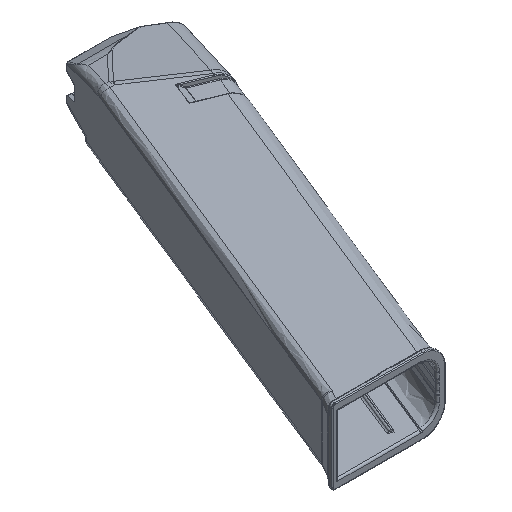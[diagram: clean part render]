
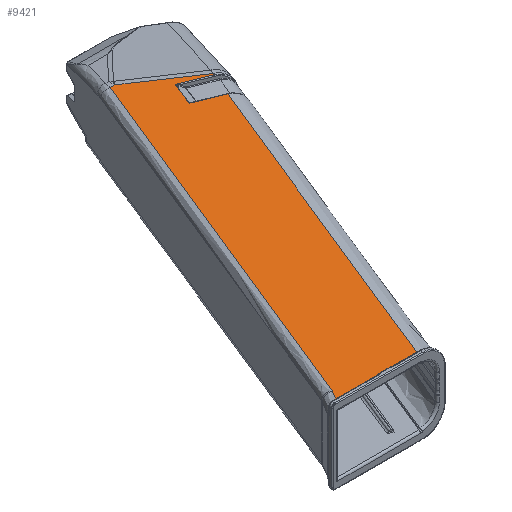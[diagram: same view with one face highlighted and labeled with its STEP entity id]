
A CAD part, isometric view. The second image highlights one B-rep face of the part: STEP entity #9421.
In plain terms, the highlighted planar face has unit normal (0, 0, 1).
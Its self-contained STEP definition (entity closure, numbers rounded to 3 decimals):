
#141=PLANE('',#10173);
#849=FACE_OUTER_BOUND('',#1448,.T.);
#1448=EDGE_LOOP('',(#6923,#6924,#6925,#6926,#6927,#6928,#6929,#6930,#6931,
#6932,#6933,#6934));
#2520=LINE('',#16167,#3068);
#2526=LINE('',#16455,#3074);
#2527=LINE('',#16458,#3075);
#2529=LINE('',#16462,#3077);
#2530=LINE('',#16464,#3078);
#2531=LINE('',#16466,#3079);
#2532=LINE('',#16468,#3080);
#2533=LINE('',#16470,#3081);
#2534=LINE('',#16472,#3082);
#2535=LINE('',#16474,#3083);
#2536=LINE('',#16476,#3084);
#2537=LINE('',#16477,#3085);
#3068=VECTOR('',#11422,975.);
#3074=VECTOR('',#11458,10.);
#3075=VECTOR('',#11463,10.);
#3077=VECTOR('',#11467,1030.);
#3078=VECTOR('',#11468,977.064);
#3079=VECTOR('',#11469,982.236);
#3080=VECTOR('',#11470,10.);
#3081=VECTOR('',#11471,1030.);
#3082=VECTOR('',#11472,1028.422);
#3083=VECTOR('',#11473,982.236);
#3084=VECTOR('',#11474,10.);
#3085=VECTOR('',#11475,10.);
#4074=VERTEX_POINT('',#16144);
#4076=VERTEX_POINT('',#16165);
#4079=VERTEX_POINT('',#16279);
#4092=VERTEX_POINT('',#16454);
#4093=VERTEX_POINT('',#16461);
#4094=VERTEX_POINT('',#16463);
#4095=VERTEX_POINT('',#16465);
#4096=VERTEX_POINT('',#16467);
#4097=VERTEX_POINT('',#16469);
#4098=VERTEX_POINT('',#16471);
#4099=VERTEX_POINT('',#16473);
#4100=VERTEX_POINT('',#16475);
#5130=EDGE_CURVE('',#4074,#4076,#2520,.T.);
#5155=EDGE_CURVE('',#4079,#4092,#2526,.T.);
#5157=EDGE_CURVE('',#4074,#4079,#2527,.T.);
#5159=EDGE_CURVE('',#4076,#4093,#2529,.T.);
#5160=EDGE_CURVE('',#4093,#4094,#2530,.T.);
#5161=EDGE_CURVE('',#4094,#4095,#2531,.T.);
#5162=EDGE_CURVE('',#4095,#4096,#2532,.T.);
#5163=EDGE_CURVE('',#4096,#4097,#2533,.T.);
#5164=EDGE_CURVE('',#4097,#4098,#2534,.T.);
#5165=EDGE_CURVE('',#4099,#4098,#2535,.T.);
#5166=EDGE_CURVE('',#4099,#4100,#2536,.T.);
#5167=EDGE_CURVE('',#4092,#4100,#2537,.T.);
#6923=ORIENTED_EDGE('',*,*,#5155,.F.);
#6924=ORIENTED_EDGE('',*,*,#5157,.F.);
#6925=ORIENTED_EDGE('',*,*,#5130,.T.);
#6926=ORIENTED_EDGE('',*,*,#5159,.T.);
#6927=ORIENTED_EDGE('',*,*,#5160,.T.);
#6928=ORIENTED_EDGE('',*,*,#5161,.T.);
#6929=ORIENTED_EDGE('',*,*,#5162,.T.);
#6930=ORIENTED_EDGE('',*,*,#5163,.T.);
#6931=ORIENTED_EDGE('',*,*,#5164,.T.);
#6932=ORIENTED_EDGE('',*,*,#5165,.F.);
#6933=ORIENTED_EDGE('',*,*,#5166,.T.);
#6934=ORIENTED_EDGE('',*,*,#5167,.F.);
#9421=ADVANCED_FACE('',(#849),#141,.T.);
#10173=AXIS2_PLACEMENT_3D('',#16460,#11465,#11466);
#11422=DIRECTION('',(0.927,-0.376,0.));
#11458=DIRECTION('',(0.927,-0.376,0.));
#11463=DIRECTION('',(-0.376,-0.927,0.));
#11465=DIRECTION('center_axis',(0.,0.,1.));
#11466=DIRECTION('ref_axis',(0.927,-0.376,0.));
#11467=DIRECTION('',(0.376,0.927,0.));
#11468=DIRECTION('',(-0.832,0.555,0.));
#11469=DIRECTION('',(-1.,0.,0.));
#11470=DIRECTION('',(-0.376,-0.927,0.));
#11471=DIRECTION('',(-0.376,-0.927,0.));
#11472=DIRECTION('',(-0.522,-0.853,0.));
#11473=DIRECTION('',(-1.,0.,0.));
#11474=DIRECTION('',(0.376,0.927,0.));
#11475=DIRECTION('',(-0.376,-0.927,0.));
#16144=CARTESIAN_POINT('',(67.421,79.242,11.526));
#16165=CARTESIAN_POINT('',(76.519,75.548,11.526));
#16167=CARTESIAN_POINT('',(53.032,85.085,11.526));
#16279=CARTESIAN_POINT('',(64.282,71.51,11.526));
#16454=CARTESIAN_POINT('',(73.38,67.816,11.526));
#16455=CARTESIAN_POINT('',(74.323,67.433,11.526));
#16458=CARTESIAN_POINT('',(65.75,75.126,11.526));
#16460=CARTESIAN_POINT('Origin',(76.21,66.363,11.526));
#16461=CARTESIAN_POINT('',(76.732,76.071,11.526));
#16462=CARTESIAN_POINT('',(76.242,74.863,11.526));
#16463=CARTESIAN_POINT('',(57.267,89.064,11.526));
#16464=CARTESIAN_POINT('',(80.763,73.381,11.526));
#16465=CARTESIAN_POINT('',(55.7,89.065,11.526));
#16466=CARTESIAN_POINT('',(21.28,89.081,11.526));
#16467=CARTESIAN_POINT('',(16.216,-8.173,11.526));
#16468=CARTESIAN_POINT('',(31.265,28.888,11.526));
#16469=CARTESIAN_POINT('',(5.399,-34.812,11.526));
#16470=CARTESIAN_POINT('',(5.483,-34.605,11.526));
#16471=CARTESIAN_POINT('',(3.166,-38.461,11.526));
#16472=CARTESIAN_POINT('',(5.09,-35.318,11.526));
#16473=CARTESIAN_POINT('',(30.22,-38.473,11.526));
#16474=CARTESIAN_POINT('',(2.865,-38.461,11.526));
#16475=CARTESIAN_POINT('',(38.8,-17.344,11.526));
#16476=CARTESIAN_POINT('',(58.273,30.613,11.526));
#16477=CARTESIAN_POINT('',(53.849,19.717,11.526));
